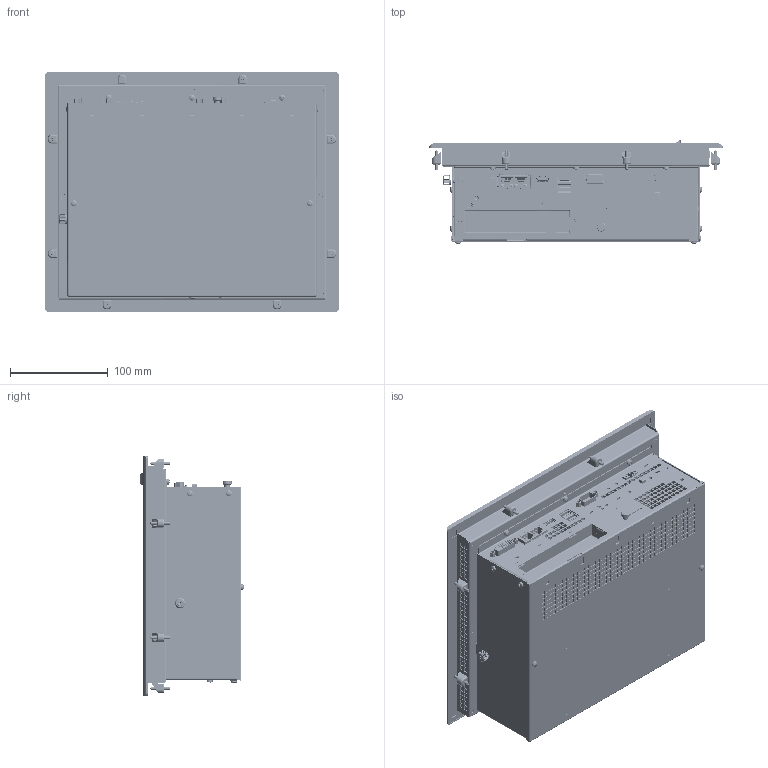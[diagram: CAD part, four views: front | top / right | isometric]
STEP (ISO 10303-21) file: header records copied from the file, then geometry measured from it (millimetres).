
FILE_DESCRIPTION((''),'2;1');
FILE_NAME('C6E22-Panel_104_RES_S1','2017-02-27T',('manpal'),(''),'PRO/ENGINEER BY PARAMETRIC TECHNOLOGY CORPORATION, 2013410','PRO/ENGINEER BY PARAMETRIC TECHNOLOGY CORPORATION, 2013410','');
FILE_SCHEMA(('AUTOMOTIVE_DESIGN { 1 0 10303 214 1 1 1 1 }'));
Products named in the file (1): C6E22-Panel_104_RES_S1_
Bounding box: 300 x 106.12 x 245 mm (x, y, z)
Surface area: 607756.2 mm2 (no closed solid volume)
Topology: 0 solids, 357 shells, 7088 faces, 26499 edges, 19567 vertices
Faces by surface type: plane 5807, cylinder 737, cone 304, bspline 145, torus 49, sphere 40, extrusion 6
Entity records: 305045 total; most frequent: CARTESIAN_POINT 68957, DIRECTION 42387, ORIENTED_EDGE 40011, EDGE_CURVE 26459, VECTOR 21953, LINE 21947, VERTEX_POINT 19567, AXIS2_PLACEMENT_3D 10217
